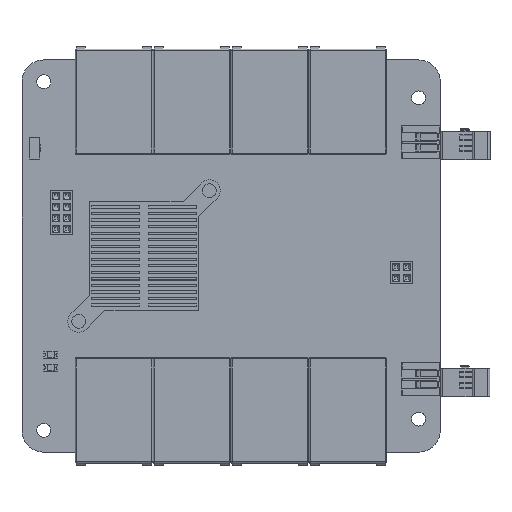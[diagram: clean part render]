
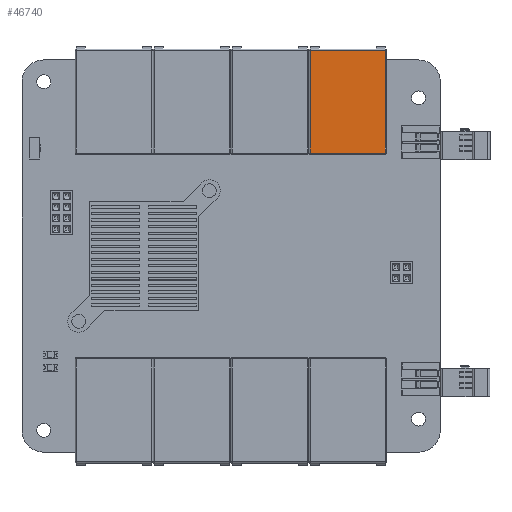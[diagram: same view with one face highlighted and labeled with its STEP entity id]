
A CAD part, top view. The second image highlights one B-rep face of the part: STEP entity #46740.
In plain terms, the highlighted planar face has unit normal (0, 0, 1).
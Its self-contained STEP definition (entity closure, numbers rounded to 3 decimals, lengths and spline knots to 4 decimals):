
#4449=FACE_OUTER_BOUND('',#7103,.T.);
#7103=EDGE_LOOP('',(#35194,#35195,#35196,#35197));
#10847=LINE('',#67514,#16672);
#10853=LINE('',#67534,#16678);
#10855=LINE('',#67537,#16680);
#10859=LINE('',#67544,#16684);
#16672=VECTOR('',#55379,0.3937);
#16678=VECTOR('',#55399,0.3937);
#16680=VECTOR('',#55403,0.3937);
#16684=VECTOR('',#55409,0.3937);
#22025=VERTEX_POINT('',#67487);
#22030=VERTEX_POINT('',#67497);
#22032=VERTEX_POINT('',#67502);
#22037=VERTEX_POINT('',#67518);
#26809=EDGE_CURVE('',#22025,#22032,#10847,.T.);
#26819=EDGE_CURVE('',#22032,#22037,#10853,.T.);
#26821=EDGE_CURVE('',#22037,#22030,#10855,.T.);
#26825=EDGE_CURVE('',#22030,#22025,#10859,.T.);
#35194=ORIENTED_EDGE('',*,*,#26809,.F.);
#35195=ORIENTED_EDGE('',*,*,#26825,.F.);
#35196=ORIENTED_EDGE('',*,*,#26821,.F.);
#35197=ORIENTED_EDGE('',*,*,#26819,.F.);
#44384=PLANE('',#49567);
#46740=ADVANCED_FACE('',(#4449),#44384,.T.);
#49567=AXIS2_PLACEMENT_3D('',#67605,#55453,#55454);
#55379=DIRECTION('',(-1.,0.,0.));
#55399=DIRECTION('',(0.,1.,0.));
#55403=DIRECTION('',(1.,0.,0.));
#55409=DIRECTION('',(0.,-1.,0.));
#55453=DIRECTION('center_axis',(0.,0.,1.));
#55454=DIRECTION('ref_axis',(0.,1.,0.));
#67487=CARTESIAN_POINT('',(3.2821,2.7017,0.5237));
#67497=CARTESIAN_POINT('',(3.2821,3.6317,0.5237));
#67502=CARTESIAN_POINT('',(2.6021,2.7017,0.5237));
#67514=CARTESIAN_POINT('',(3.2921,2.7017,0.5237));
#67518=CARTESIAN_POINT('',(2.6021,3.6317,0.5237));
#67534=CARTESIAN_POINT('',(2.6021,2.6917,0.5237));
#67537=CARTESIAN_POINT('',(2.9421,3.6317,0.5237));
#67544=CARTESIAN_POINT('',(3.2821,3.1667,0.5237));
#67605=CARTESIAN_POINT('Origin',(3.2921,2.6917,0.5237));
